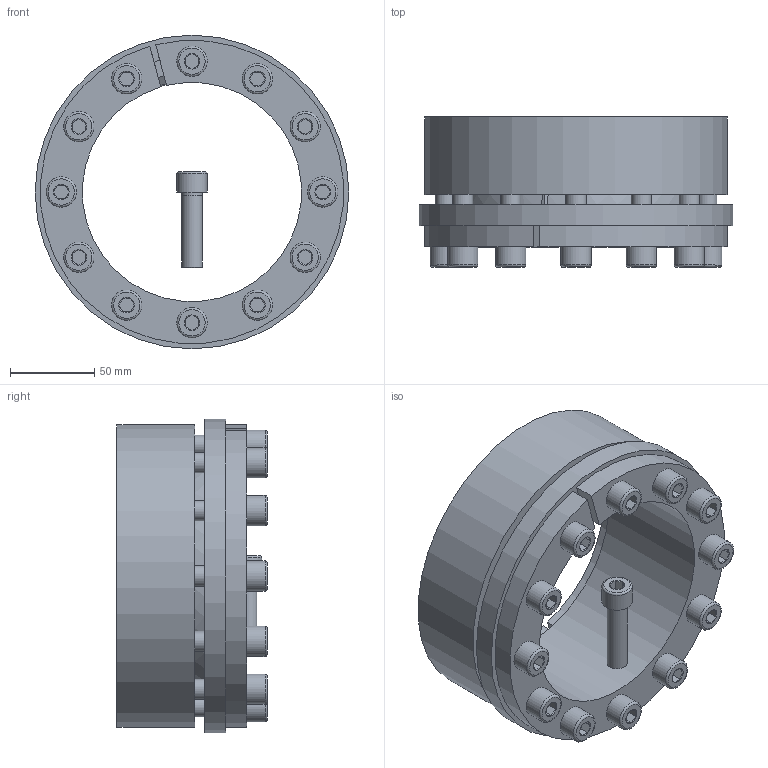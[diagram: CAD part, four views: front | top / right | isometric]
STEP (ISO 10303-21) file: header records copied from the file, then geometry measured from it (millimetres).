
FILE_DESCRIPTION( ( 'Unknown' ), '1' );
FILE_NAME( 'C:/Dokumente und Einstellungen/Sven/Desktop/homepage/cad - homepage/KBS71/KBS 71 - 130 x 180.stp', 'Unknown', ( 'Unknown' ), ( 'Unknown' ), 'XStep 1.0', 'Unknown', ' ' );
FILE_SCHEMA( ( 'automotive_design' ) );
Length unit declared in the file: millimetre
Products named in the file (3): Assem1; KBS 71 - 130 x 180; ISO EN DIN 4762 M12x45
Bounding box: 186 x 89 x 186 mm (x, y, z)
Volume: 1696464.6 mm3; surface area: 342285.8 mm2
Topology: 15 solids, 15 shells, 421 faces, 903 edges, 538 vertices
Faces by surface type: plane 188, cylinder 108, cone 99, torus 26
Full cylindrical faces by diameter (mm): 11 x13, 12 x74, 18 x13, 186 x2
Entity records: 2518 total; most frequent: DIRECTION 416, CARTESIAN_POINT 413, ORIENTED_EDGE 312, AXIS2_PLACEMENT_3D 183, EDGE_CURVE 156, EDGE_LOOP 150, VERTEX_POINT 112, FACE_OUTER_BOUND 104
